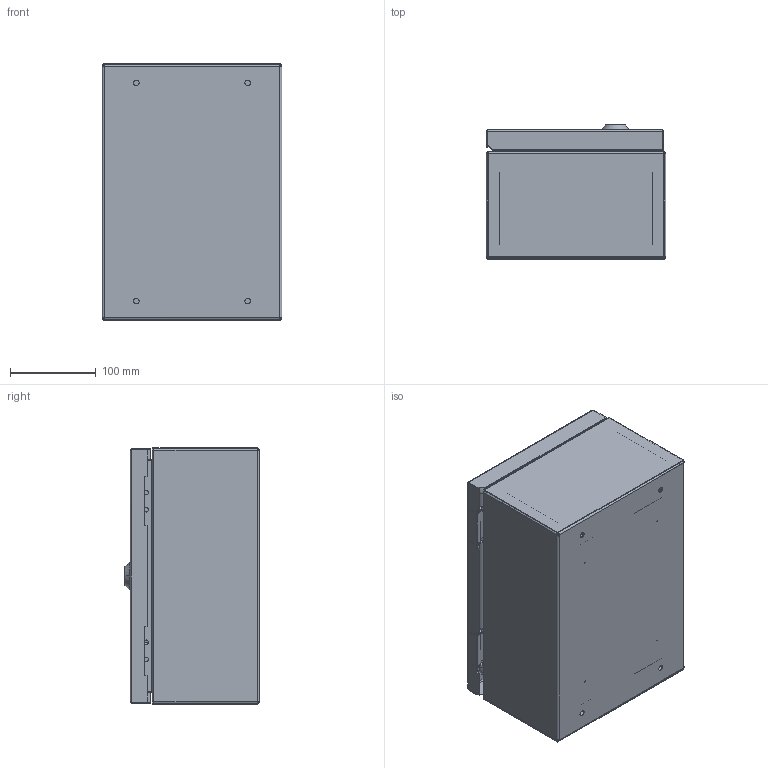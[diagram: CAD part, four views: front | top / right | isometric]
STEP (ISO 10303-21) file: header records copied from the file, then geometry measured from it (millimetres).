
FILE_DESCRIPTION (( 'STEP AP214' ), '1' );
FILE_NAME ('ÙÌÏ-321-300õ210õ150-IP54-ÓÕË2-ÊÝÀÇ.STEP', '2023-01-24T12:08:44', ( '' ), ( '' ), 'SwSTEP 2.0', 'SolidWorks 2018', '' );
FILE_SCHEMA (( 'AUTOMOTIVE_DESIGN' ));
Length unit declared in the file: millimetre
Products named in the file (1): ÙÌÏ-321-300õ210õ150-IP54-ÓÕË2-ÊÝÀÇ
Bounding box: 210 x 156.7 x 300 mm (x, y, z)
Surface area: 650596.9 mm2 (no closed solid volume)
Topology: 0 solids, 32 shells, 240 faces, 790 edges, 565 vertices
Faces by surface type: plane 127, cylinder 73, bspline 26, torus 10, sphere 2, cone 2
Entity records: 12654 total; most frequent: CARTESIAN_POINT 3274, DIRECTION 1374, ORIENTED_EDGE 1184, EDGE_CURVE 790, VERTEX_POINT 565, VECTOR 484, LINE 484, AXIS2_PLACEMENT_3D 445
